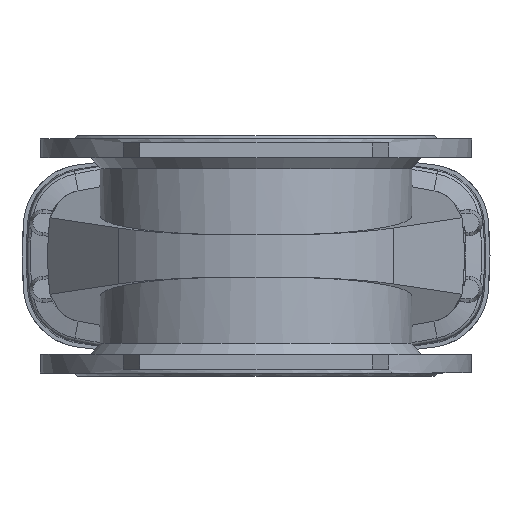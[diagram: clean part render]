
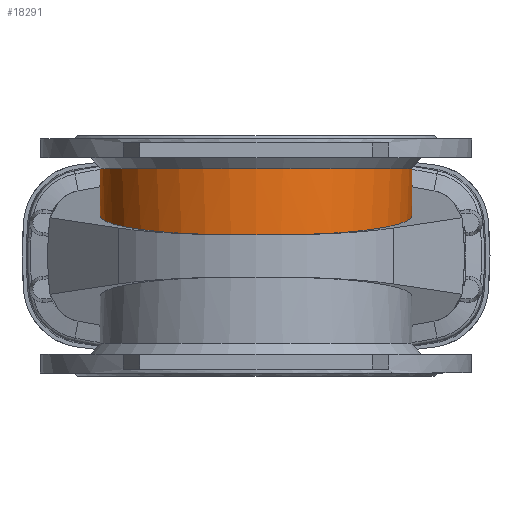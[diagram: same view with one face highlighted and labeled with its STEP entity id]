
A CAD part, front view. The second image highlights one B-rep face of the part: STEP entity #18291.
In plain terms, the highlighted cylindrical face has radius 188 mm (diameter 376 mm), a partial arc.
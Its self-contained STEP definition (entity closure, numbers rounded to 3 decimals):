
#1715 = EDGE_CURVE ( 'NONE', #3466, #18573, #5402, .T. ) ;
#1719 = EDGE_CURVE ( 'NONE', #18670, #18573, #9670, .T. ) ;
#1720 = EDGE_CURVE ( 'NONE', #18807, #3466, #5411, .T. ) ;
#1752 = EDGE_CURVE ( 'NONE', #18807, #18790, #5448, .T. ) ;
#1759 = EDGE_CURVE ( 'NONE', #18670, #18790, #9680, .T. ) ;
#3262 = AXIS2_PLACEMENT_3D ( 'NONE', #10833, #10834, #10836 ) ;
#3466 = VERTEX_POINT ( 'NONE', #11695 ) ;
#4128 = ORIENTED_EDGE ( 'NONE', *, *, #1719, .F. ) ;
#4129 = ORIENTED_EDGE ( 'NONE', *, *, #1759, .T. ) ;
#4132 = ORIENTED_EDGE ( 'NONE', *, *, #1715, .T. ) ;
#4156 = ORIENTED_EDGE ( 'NONE', *, *, #1752, .F. ) ;
#4158 = ORIENTED_EDGE ( 'NONE', *, *, #1720, .T. ) ;
#4255 = EDGE_LOOP ( 'NONE', ( #4158, #4132, #4128, #4129, #4156 ) ) ;
#5402 = LINE ( 'NONE', #10791, #5407 ) ;
#5407 = VECTOR ( 'NONE', #10728, 1000. ) ;
#5411 = CIRCLE ( 'NONE', #3262, 188. ) ;
#5448 = LINE ( 'NONE', #11082, #5450 ) ;
#5450 = VECTOR ( 'NONE', #11098, 1000. ) ;
#9670 =( BOUNDED_CURVE ( )  B_SPLINE_CURVE ( 3, ( #10820, #10806, #10823, #10825 ),
 .UNSPECIFIED., .F., .F. ) 
 B_SPLINE_CURVE_WITH_KNOTS ( ( 4, 4 ),
 ( 6.158, 9.257 ),
 .UNSPECIFIED. ) 
 CURVE ( )  GEOMETRIC_REPRESENTATION_ITEM ( )  RATIONAL_B_SPLINE_CURVE ( ( 1., 0.348, 0.348, 1. ) ) 
 REPRESENTATION_ITEM ( '' )  );
#9680 =( BOUNDED_CURVE ( )  B_SPLINE_CURVE ( 3, ( #11121, #11124, #11152, #11154 ),
 .UNSPECIFIED., .F., .F. ) 
 B_SPLINE_CURVE_WITH_KNOTS ( ( 4, 4 ),
 ( 6.158, 9.257 ),
 .UNSPECIFIED. ) 
 CURVE ( )  GEOMETRIC_REPRESENTATION_ITEM ( )  RATIONAL_B_SPLINE_CURVE ( ( 1., 0.348, 0.348, 1. ) ) 
 REPRESENTATION_ITEM ( '' )  );
#10728 = DIRECTION ( 'NONE',  ( 0., 0., -1. ) ) ;
#10791 = CARTESIAN_POINT ( 'NONE',  ( -8., 187.83, 1000. ) ) ;
#10806 = CARTESIAN_POINT ( 'NONE',  ( -360.568, -188., 19.418 ) ) ;
#10820 = CARTESIAN_POINT ( 'NONE',  ( 0., -188., 25.774 ) ) ;
#10823 = CARTESIAN_POINT ( 'NONE',  ( -368.241, 172.486, 69.946 ) ) ;
#10825 = CARTESIAN_POINT ( 'NONE',  ( -8., 187.83, 78.452 ) ) ;
#10833 = CARTESIAN_POINT ( 'NONE',  ( 0., 0., 105.391 ) ) ;
#10834 = DIRECTION ( 'NONE',  ( 0., 0., -1. ) ) ;
#10836 = DIRECTION ( 'NONE',  ( -1., 0., 0. ) ) ;
#11082 = CARTESIAN_POINT ( 'NONE',  ( 8., 187.83, 1000. ) ) ;
#11098 = DIRECTION ( 'NONE',  ( 0., 0., -1. ) ) ;
#11121 = CARTESIAN_POINT ( 'NONE',  ( 0., -188., 25.774 ) ) ;
#11124 = CARTESIAN_POINT ( 'NONE',  ( 360.568, -188., 19.418 ) ) ;
#11152 = CARTESIAN_POINT ( 'NONE',  ( 368.241, 172.486, 69.946 ) ) ;
#11154 = CARTESIAN_POINT ( 'NONE',  ( 8., 187.83, 78.452 ) ) ;
#11695 = CARTESIAN_POINT ( 'NONE',  ( -8., 187.83, 105.391 ) ) ;
#12530 = CYLINDRICAL_SURFACE ( 'NONE', #14110, 188. ) ;
#12532 = FACE_OUTER_BOUND ( 'NONE', #4255, .T. ) ;
#14110 = AXIS2_PLACEMENT_3D ( 'NONE', #14445, #14442, #14439 ) ;
#14439 = DIRECTION ( 'NONE',  ( -1., 0., 0. ) ) ;
#14442 = DIRECTION ( 'NONE',  ( 0., 0., -1. ) ) ;
#14445 = CARTESIAN_POINT ( 'NONE',  ( 0., 0., 1000. ) ) ;
#17887 = CARTESIAN_POINT ( 'NONE',  ( -8., 187.83, 78.452 ) ) ;
#17983 = CARTESIAN_POINT ( 'NONE',  ( 0., -188., 25.774 ) ) ;
#18103 = CARTESIAN_POINT ( 'NONE',  ( 8., 187.83, 78.452 ) ) ;
#18120 = CARTESIAN_POINT ( 'NONE',  ( 8., 187.83, 105.391 ) ) ;
#18291 = ADVANCED_FACE ( 'NONE', ( #12532 ), #12530, .T. ) ;
#18573 = VERTEX_POINT ( 'NONE', #17887 ) ;
#18670 = VERTEX_POINT ( 'NONE', #17983 ) ;
#18790 = VERTEX_POINT ( 'NONE', #18103 ) ;
#18807 = VERTEX_POINT ( 'NONE', #18120 ) ;
